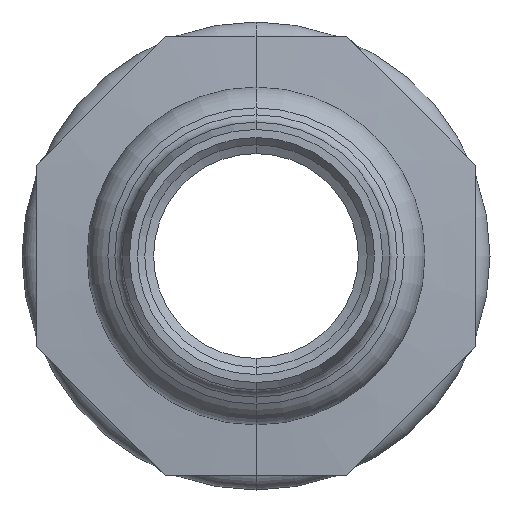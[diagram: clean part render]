
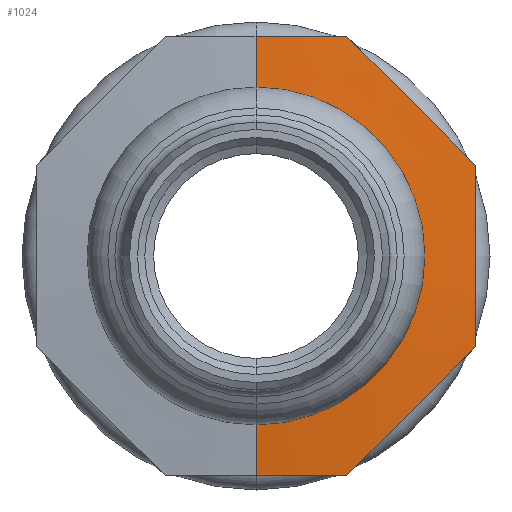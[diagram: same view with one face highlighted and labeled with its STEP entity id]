
A CAD part, front view. The second image highlights one B-rep face of the part: STEP entity #1024.
In plain terms, the highlighted conical face has half-angle 85 degrees and reference radius 10.063 mm.
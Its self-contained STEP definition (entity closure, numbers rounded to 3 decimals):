
#34 = CARTESIAN_POINT ( 'NONE',  ( 15., 22.62, 6.213 ) ) ;
#65 = CARTESIAN_POINT ( 'NONE',  ( 15., 22.551, -4.142 ) ) ;
#72 = EDGE_CURVE ( 'NONE', #1799, #775, #1632, .T. ) ;
#78 = CONICAL_SURFACE ( 'NONE', #845, 10.063, 1.484 ) ;
#214 = CARTESIAN_POINT ( 'NONE',  ( 0., 22.08, 10.063 ) ) ;
#225 = B_SPLINE_CURVE_WITH_KNOTS ( 'NONE', 3,
 ( #1644, #1327, #598, #1872 ),
 .UNSPECIFIED., .F., .F.,
 ( 4, 4 ),
 ( 0.027, 0.034 ),
 .UNSPECIFIED. ) ;
#229 = CARTESIAN_POINT ( 'NONE',  ( 13.536, 22.551, -7.678 ) ) ;
#238 = CARTESIAN_POINT ( 'NONE',  ( 15., 22.62, -6.213 ) ) ;
#254 = ORIENTED_EDGE ( 'NONE', *, *, #72, .F. ) ;
#284 = CARTESIAN_POINT ( 'NONE',  ( 10.607, 22.473, -10.607 ) ) ;
#292 = B_SPLINE_CURVE_WITH_KNOTS ( 'NONE', 3,
 ( #238, #229, #284, #582, #443 ),
 .UNSPECIFIED., .F., .F.,
 ( 4, 1, 4 ),
 ( 0., 0.006, 0.012 ),
 .UNSPECIFIED. ) ;
#340 = AXIS2_PLACEMENT_3D ( 'NONE', #1722, #1714, #1563 ) ;
#352 = B_SPLINE_CURVE_WITH_KNOTS ( 'NONE', 3,
 ( #752, #697, #693, #855, #65, #936 ),
 .UNSPECIFIED., .F., .F.,
 ( 4, 2, 4 ),
 ( 0.027, 0.034, 0.04 ),
 .UNSPECIFIED. ) ;
#377 = CARTESIAN_POINT ( 'NONE',  ( 0., 22.512, -15. ) ) ;
#379 = CARTESIAN_POINT ( 'NONE',  ( 0., 22.08, 0. ) ) ;
#427 = DIRECTION ( 'NONE',  ( 0., 1., 0. ) ) ;
#443 = CARTESIAN_POINT ( 'NONE',  ( 6.213, 22.62, -15. ) ) ;
#447 = LINE ( 'NONE', #1589, #1489 ) ;
#459 = EDGE_CURVE ( 'NONE', #1352, #821, #352, .T. ) ;
#473 = CARTESIAN_POINT ( 'NONE',  ( 15., 22.62, -6.213 ) ) ;
#479 = VERTEX_POINT ( 'NONE', #908 ) ;
#492 = CIRCLE ( 'NONE', #340, 10.063 ) ;
#536 = FACE_OUTER_BOUND ( 'NONE', #659, .T. ) ;
#540 = CARTESIAN_POINT ( 'NONE',  ( 6.213, 22.62, 15. ) ) ;
#582 = CARTESIAN_POINT ( 'NONE',  ( 7.678, 22.551, -13.536 ) ) ;
#598 = CARTESIAN_POINT ( 'NONE',  ( 2.072, 22.512, -15. ) ) ;
#634 = VERTEX_POINT ( 'NONE', #1274 ) ;
#637 = CARTESIAN_POINT ( 'NONE',  ( 4.143, 22.551, 15. ) ) ;
#659 = EDGE_LOOP ( 'NONE', ( #948, #1891, #1931, #1334, #715, #1044, #929, #254 ) ) ;
#685 = VERTEX_POINT ( 'NONE', #1801 ) ;
#693 = CARTESIAN_POINT ( 'NONE',  ( 15., 22.512, 2.073 ) ) ;
#697 = CARTESIAN_POINT ( 'NONE',  ( 15., 22.551, 4.143 ) ) ;
#715 = ORIENTED_EDGE ( 'NONE', *, *, #459, .F. ) ;
#722 = EDGE_CURVE ( 'NONE', #634, #1799, #492, .T. ) ;
#746 = DIRECTION ( 'NONE',  ( 0., 0., 1. ) ) ;
#752 = CARTESIAN_POINT ( 'NONE',  ( 15., 22.62, 6.213 ) ) ;
#775 = VERTEX_POINT ( 'NONE', #1459 ) ;
#821 = VERTEX_POINT ( 'NONE', #473 ) ;
#830 = EDGE_CURVE ( 'NONE', #479, #1352, #966, .T. ) ;
#845 = AXIS2_PLACEMENT_3D ( 'NONE', #379, #427, #746 ) ;
#855 = CARTESIAN_POINT ( 'NONE',  ( 15., 22.512, -2.07 ) ) ;
#860 = EDGE_CURVE ( 'NONE', #685, #1242, #225, .T. ) ;
#908 = CARTESIAN_POINT ( 'NONE',  ( 6.213, 22.62, 15. ) ) ;
#929 = ORIENTED_EDGE ( 'NONE', *, *, #1144, .F. ) ;
#936 = CARTESIAN_POINT ( 'NONE',  ( 15., 22.62, -6.213 ) ) ;
#937 = CARTESIAN_POINT ( 'NONE',  ( 0., 22.512, 15. ) ) ;
#948 = ORIENTED_EDGE ( 'NONE', *, *, #722, .F. ) ;
#966 = B_SPLINE_CURVE_WITH_KNOTS ( 'NONE', 3,
 ( #1882, #1618, #1353, #1384, #1740 ),
 .UNSPECIFIED., .F., .F.,
 ( 4, 1, 4 ),
 ( 0., 0.006, 0.012 ),
 .UNSPECIFIED. ) ;
#1024 = ADVANCED_FACE ( 'NONE', ( #536 ), #78, .T. ) ;
#1044 = ORIENTED_EDGE ( 'NONE', *, *, #830, .F. ) ;
#1094 = CARTESIAN_POINT ( 'NONE',  ( 2.072, 22.512, 15. ) ) ;
#1144 = EDGE_CURVE ( 'NONE', #775, #479, #1915, .T. ) ;
#1242 = VERTEX_POINT ( 'NONE', #377 ) ;
#1274 = CARTESIAN_POINT ( 'NONE',  ( 0., 22.08, -10.063 ) ) ;
#1313 = CARTESIAN_POINT ( 'NONE',  ( 0., 22.08, 10.063 ) ) ;
#1327 = CARTESIAN_POINT ( 'NONE',  ( 4.143, 22.551, -15. ) ) ;
#1334 = ORIENTED_EDGE ( 'NONE', *, *, #1408, .F. ) ;
#1352 = VERTEX_POINT ( 'NONE', #34 ) ;
#1353 = CARTESIAN_POINT ( 'NONE',  ( 10.607, 22.473, 10.607 ) ) ;
#1384 = CARTESIAN_POINT ( 'NONE',  ( 13.536, 22.551, 7.678 ) ) ;
#1408 = EDGE_CURVE ( 'NONE', #821, #685, #292, .T. ) ;
#1459 = CARTESIAN_POINT ( 'NONE',  ( 0., 22.512, 15. ) ) ;
#1489 = VECTOR ( 'NONE', #1595, 1000. ) ;
#1563 = DIRECTION ( 'NONE',  ( 0., 0., -1. ) ) ;
#1589 = CARTESIAN_POINT ( 'NONE',  ( 0., 22.08, -10.063 ) ) ;
#1595 = DIRECTION ( 'NONE',  ( 0., 0.087, -0.996 ) ) ;
#1618 = CARTESIAN_POINT ( 'NONE',  ( 7.678, 22.551, 13.536 ) ) ;
#1632 = LINE ( 'NONE', #214, #1791 ) ;
#1633 = DIRECTION ( 'NONE',  ( 0., 0.087, 0.996 ) ) ;
#1644 = CARTESIAN_POINT ( 'NONE',  ( 6.213, 22.62, -15. ) ) ;
#1714 = DIRECTION ( 'NONE',  ( 0., -1., 0. ) ) ;
#1722 = CARTESIAN_POINT ( 'NONE',  ( 0., 22.08, 0. ) ) ;
#1740 = CARTESIAN_POINT ( 'NONE',  ( 15., 22.62, 6.213 ) ) ;
#1791 = VECTOR ( 'NONE', #1633, 1000. ) ;
#1799 = VERTEX_POINT ( 'NONE', #1313 ) ;
#1801 = CARTESIAN_POINT ( 'NONE',  ( 6.213, 22.62, -15. ) ) ;
#1830 = EDGE_CURVE ( 'NONE', #634, #1242, #447, .T. ) ;
#1872 = CARTESIAN_POINT ( 'NONE',  ( 0., 22.512, -15. ) ) ;
#1882 = CARTESIAN_POINT ( 'NONE',  ( 6.213, 22.62, 15. ) ) ;
#1891 = ORIENTED_EDGE ( 'NONE', *, *, #1830, .T. ) ;
#1915 = B_SPLINE_CURVE_WITH_KNOTS ( 'NONE', 3,
 ( #937, #1094, #637, #540 ),
 .UNSPECIFIED., .F., .F.,
 ( 4, 4 ),
 ( 0.02, 0.027 ),
 .UNSPECIFIED. ) ;
#1931 = ORIENTED_EDGE ( 'NONE', *, *, #860, .F. ) ;
